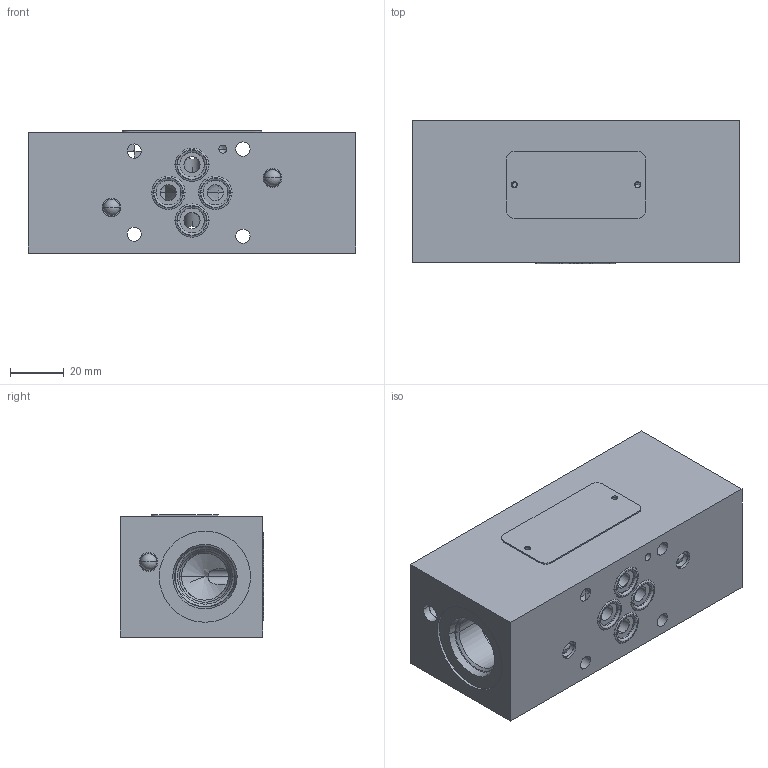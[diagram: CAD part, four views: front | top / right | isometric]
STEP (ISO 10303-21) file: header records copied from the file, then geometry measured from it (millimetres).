
FILE_DESCRIPTION((''),'2;1');
FILE_NAME('410472_ASM','2023-10-13T',('l.soukupova'),(''),'PRO/ENGINEER BY PARAMETRIC TECHNOLOGY CORPORATION, 2015440','PRO/ENGINEER BY PARAMETRIC TECHNOLOGY CORPORATION, 2015440','');
FILE_SCHEMA(('AUTOMOTIVE_DESIGN { 1 0 10303 214 1 1 1 1 }'));
Length unit declared in the file: millimetre
Products named in the file (5): 410471; MB850_070E; 15970300; ORAR00012_201524; 410472_ASM
Assembly tree (10 placements, depth 2):
  410472_ASM
    410471
    MB850_070E  x4
    15970300
    ORAR00012_201524  x4
Bounding box: 122 x 53.38 x 45.5 mm (x, y, z)
Volume: 243511.9 mm3; surface area: 52257.6 mm2
Topology: 10 solids, 14 shells, 371 faces, 988 edges, 727 vertices
Faces by surface type: cone 149, cylinder 144, plane 38, torus 32, sphere 8
Entity records: 13696 total; most frequent: CARTESIAN_POINT 3569, DIRECTION 1407, ORIENTED_EDGE 1046, PRESENTATION_STYLE_ASSIGNMENT 858, STYLED_ITEM 744, CURVE_STYLE 737, AXIS2_PLACEMENT_3D 548, EDGE_CURVE 531
